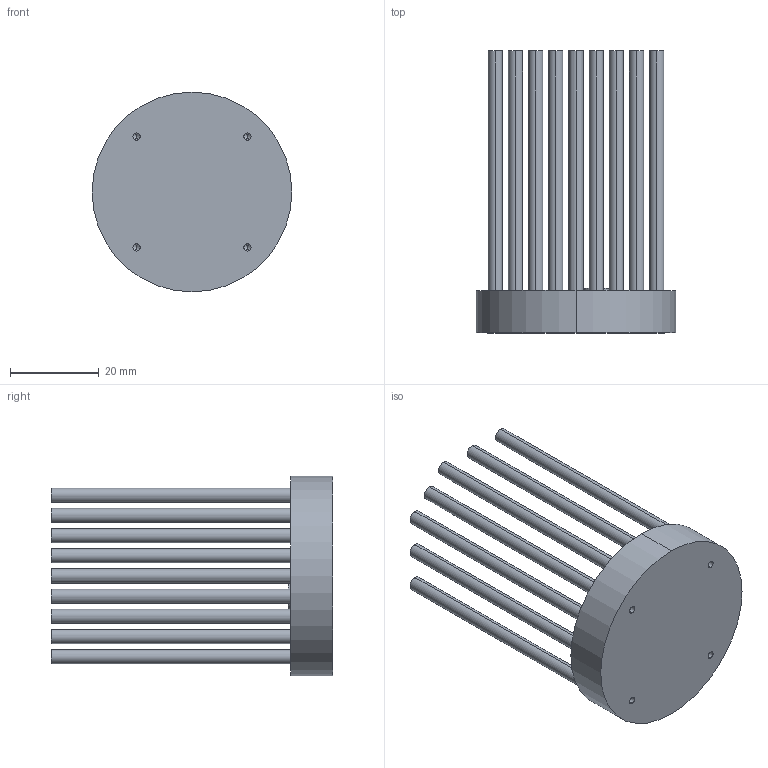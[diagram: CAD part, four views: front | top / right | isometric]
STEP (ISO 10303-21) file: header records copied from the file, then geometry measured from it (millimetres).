
FILE_DESCRIPTION (( 'STEP AP203' ), '1' );
FILE_NAME ('141-660-00_Rev-A-00.step', '2021-05-27T13:57:07', ( '' ), ( '' ), 'SwSTEP 2.0', 'SolidWorks 2020', '' );
FILE_SCHEMA (( 'CONFIG_CONTROL_DESIGN' ));
Length unit declared in the file: millimetre
Products named in the file (1): 141-660-00_Rev-A-00
Bounding box: 45 x 63.5 x 45 mm (x, y, z)
Volume: 30496.2 mm3; surface area: 24044.5 mm2
Topology: 1 solids, 1 shells, 131 faces, 268 edges, 172 vertices
Faces by surface type: cylinder 84, plane 39, cone 8
Entity records: 3547 total; most frequent: DIRECTION 692, CARTESIAN_POINT 564, ORIENTED_EDGE 520, AXIS2_PLACEMENT_3D 300, EDGE_CURVE 260, EDGE_LOOP 172, VERTEX_POINT 172, CIRCLE 168
